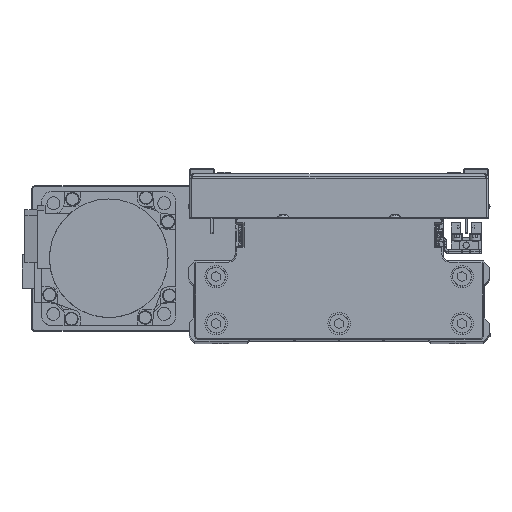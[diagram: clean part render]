
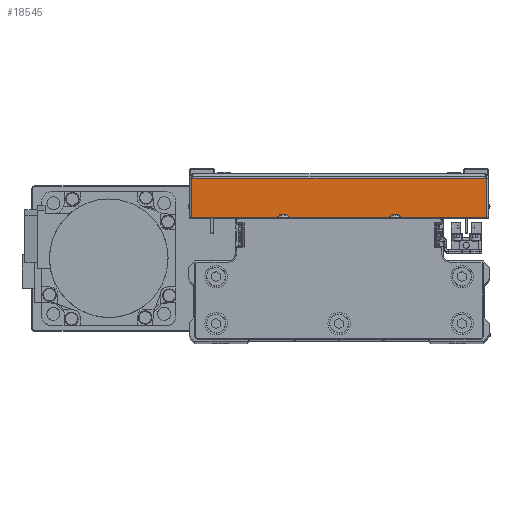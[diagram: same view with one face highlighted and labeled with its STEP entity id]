
A CAD part, top view. The second image highlights one B-rep face of the part: STEP entity #18545.
In plain terms, the highlighted planar face has unit normal (0, 0, 1) as drawn and (1, 0, 0) by its records, which use the part's own axes.
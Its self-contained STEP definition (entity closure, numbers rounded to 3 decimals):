
#2043 = CARTESIAN_POINT ( 'NONE',  ( 100., 18.5, 65.929 ) ) ;
#2075 = VERTEX_POINT ( 'NONE', #12280 ) ;
#2346 = EDGE_CURVE ( 'NONE', #9441, #24025, #34873, .T. ) ;
#4442 = CARTESIAN_POINT ( 'NONE',  ( 100., 18.5, 0. ) ) ;
#5860 = ORIENTED_EDGE ( 'NONE', *, *, #6369, .F. ) ;
#6369 = EDGE_CURVE ( 'NONE', #34051, #2075, #7501, .T. ) ;
#6772 = DIRECTION ( 'NONE',  ( 0., 1., 0. ) ) ;
#7501 = LINE ( 'NONE', #21043, #15534 ) ;
#7655 = VECTOR ( 'NONE', #17970, 1000. ) ;
#8175 = LINE ( 'NONE', #21715, #24185 ) ;
#9375 = DIRECTION ( 'NONE',  ( 0., -1., 0. ) ) ;
#9441 = VERTEX_POINT ( 'NONE', #12526 ) ;
#10009 = EDGE_LOOP ( 'NONE', ( #5860, #13761, #23423, #16545 ) ) ;
#12280 = CARTESIAN_POINT ( 'NONE',  ( 100., 1., 65.929 ) ) ;
#12526 = CARTESIAN_POINT ( 'NONE',  ( 100., 18.5, -65.929 ) ) ;
#12714 = PLANE ( 'NONE',  #21810 ) ;
#13392 = VECTOR ( 'NONE', #6772, 1000. ) ;
#13761 = ORIENTED_EDGE ( 'NONE', *, *, #42860, .T. ) ;
#15534 = VECTOR ( 'NONE', #34604, 1000. ) ;
#16545 = ORIENTED_EDGE ( 'NONE', *, *, #32444, .F. ) ;
#17970 = DIRECTION ( 'NONE',  ( 0., 0., 1. ) ) ;
#18545 = ADVANCED_FACE ( 'NONE', ( #43129 ), #12714, .F. ) ;
#21043 = CARTESIAN_POINT ( 'NONE',  ( 100., 1., 67. ) ) ;
#21715 = CARTESIAN_POINT ( 'NONE',  ( 100., 0., -65.929 ) ) ;
#21810 = AXIS2_PLACEMENT_3D ( 'NONE', #26247, #39793, #9375 ) ;
#22727 = CARTESIAN_POINT ( 'NONE',  ( 100., 1., -65.929 ) ) ;
#23423 = ORIENTED_EDGE ( 'NONE', *, *, #2346, .T. ) ;
#23638 = LINE ( 'NONE', #37198, #13392 ) ;
#24025 = VERTEX_POINT ( 'NONE', #2043 ) ;
#24185 = VECTOR ( 'NONE', #35281, 1000. ) ;
#26247 = CARTESIAN_POINT ( 'NONE',  ( 100., 0., 0. ) ) ;
#32444 = EDGE_CURVE ( 'NONE', #2075, #24025, #23638, .T. ) ;
#34051 = VERTEX_POINT ( 'NONE', #22727 ) ;
#34604 = DIRECTION ( 'NONE',  ( 0., 0., 1. ) ) ;
#34873 = LINE ( 'NONE', #4442, #7655 ) ;
#35281 = DIRECTION ( 'NONE',  ( 0., 1., 0. ) ) ;
#37198 = CARTESIAN_POINT ( 'NONE',  ( 100., 0., 65.929 ) ) ;
#39793 = DIRECTION ( 'NONE',  ( -1., 0., 0. ) ) ;
#42860 = EDGE_CURVE ( 'NONE', #34051, #9441, #8175, .T. ) ;
#43129 = FACE_OUTER_BOUND ( 'NONE', #10009, .T. ) ;
